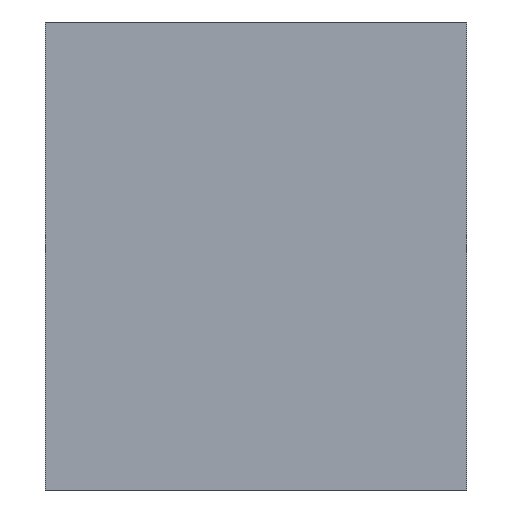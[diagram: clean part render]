
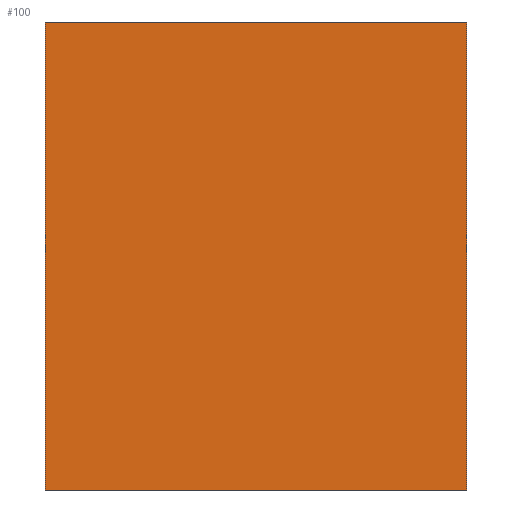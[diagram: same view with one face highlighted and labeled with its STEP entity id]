
A CAD part, left-side view. The second image highlights one B-rep face of the part: STEP entity #100.
In plain terms, the highlighted planar face has unit normal (-1, 0, 0).
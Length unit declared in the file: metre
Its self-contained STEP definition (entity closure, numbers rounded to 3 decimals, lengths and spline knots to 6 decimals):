
#20=ORIENTED_EDGE('',*,*,#43,.T.);
#21=ORIENTED_EDGE('',*,*,#42,.T.);
#22=ORIENTED_EDGE('',*,*,#44,.F.);
#23=ORIENTED_EDGE('',*,*,#45,.F.);
#42=EDGE_CURVE('',#52,#53,#62,.T.);
#43=EDGE_CURVE('',#54,#52,#63,.T.);
#44=EDGE_CURVE('',#55,#53,#64,.F.);
#45=EDGE_CURVE('',#54,#55,#65,.T.);
#52=VERTEX_POINT('',#153);
#53=VERTEX_POINT('',#155);
#54=VERTEX_POINT('',#159);
#55=VERTEX_POINT('',#161);
#62=LINE('',#156,#74);
#63=LINE('',#158,#75);
#64=LINE('',#160,#76);
#65=LINE('',#162,#77);
#74=VECTOR('',#127,1.);
#75=VECTOR('',#130,1.);
#76=VECTOR('',#131,1.);
#77=VECTOR('',#132,1.);
#82=EDGE_LOOP('',(#20,#21,#22,#23));
#88=FACE_BOUND('',#82,.T.);
#94=PLANE('',#111);
#100=ADVANCED_FACE('',(#88),#94,.T.);
#111=AXIS2_PLACEMENT_3D('',#157,#128,#129);
#127=DIRECTION('',(0.,0.,1.));
#128=DIRECTION('',(-1.,0.,0.));
#129=DIRECTION('',(0.,-1.,0.));
#130=DIRECTION('',(0.,-1.,0.));
#131=DIRECTION('',(0.,1.,0.));
#132=DIRECTION('',(0.,0.,1.));
#153=CARTESIAN_POINT('',(0.004298,0.001075,-0.0284));
#155=CARTESIAN_POINT('',(0.004298,0.001075,-0.0269));
#156=CARTESIAN_POINT('',(0.004298,0.001075,-0.0284));
#157=CARTESIAN_POINT('',(0.004298,0.002425,-0.0284));
#158=CARTESIAN_POINT('',(0.004298,0.002425,-0.0284));
#159=CARTESIAN_POINT('',(0.004298,0.002425,-0.0284));
#160=CARTESIAN_POINT('',(0.004298,0.00175,-0.0269));
#161=CARTESIAN_POINT('',(0.004298,0.002425,-0.0269));
#162=CARTESIAN_POINT('',(0.004298,0.002425,-0.0284));
